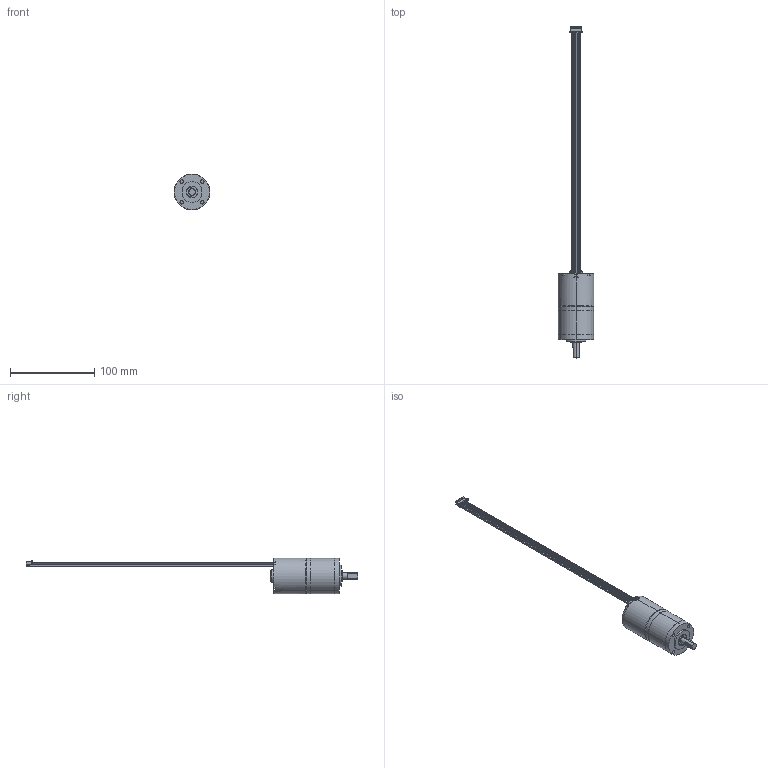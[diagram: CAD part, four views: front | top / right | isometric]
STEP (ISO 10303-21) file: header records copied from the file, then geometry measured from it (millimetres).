
FILE_DESCRIPTION((''),'2;1');
FILE_NAME('IG-42GM-61TYPE-2STAGE_ASM','2023-07-06T15:07:26',('M.C.Hsu'),(''),'CREO PARAMETRIC BY PTC INC, 2020414','CREO PARAMETRIC BY PTC INC, 2020414','');
FILE_SCHEMA(('CONFIG_CONTROL_DESIGN'));
Length unit declared in the file: millimetre
Products named in the file (19): BL42012102____F___20230202_STEP; 4239_D_B_STEP; BL42610101____U_M______STEP; NONE-11057; NONE-11341; NONE-12288; NONE-12680; NONE-30425; NONE-31309; NONE-49535; NONE-50646; UVW__W_L___STEP_ASM; _W_L___STEP_ASM; _STEP; XHP-5_STEP; BL4239__STEP000_ASM; IG420024-00; IG-42GM-61TYPE-2STAGE_1_ASM; IG-42GM-61TYPE-2STAGE_ASM
Assembly tree (18 placements, depth 6):
  IG-42GM-61TYPE-2STAGE_ASM
    IG-42GM-61TYPE-2STAGE_1_ASM
      BL4239__STEP000_ASM
        BL42012102____F___20230202_STEP
        4239_D_B_STEP
        BL42610101____U_M______STEP
        _W_L___STEP_ASM
          UVW__W_L___STEP_ASM
            NONE-11057
            NONE-11341
            NONE-12288
            NONE-12680
            NONE-30425
            NONE-31309
            NONE-49535
            NONE-50646
        _STEP
        XHP-5_STEP
      IG420024-00
Bounding box: 42.4 x 394.85 x 42.45 mm (x, y, z)
Volume: 69372.7 mm3; surface area: 40315.4 mm2
Topology: 14 solids, 14 shells, 384 faces, 906 edges, 594 vertices
Faces by surface type: plane 227, cylinder 121, torus 28, cone 8
Entity records: 11698 total; most frequent: DIRECTION 2130, CARTESIAN_POINT 2030, ORIENTED_EDGE 1812, EDGE_CURVE 906, AXIS2_PLACEMENT_3D 790, VERTEX_POINT 594, VECTOR 550, LINE 550
